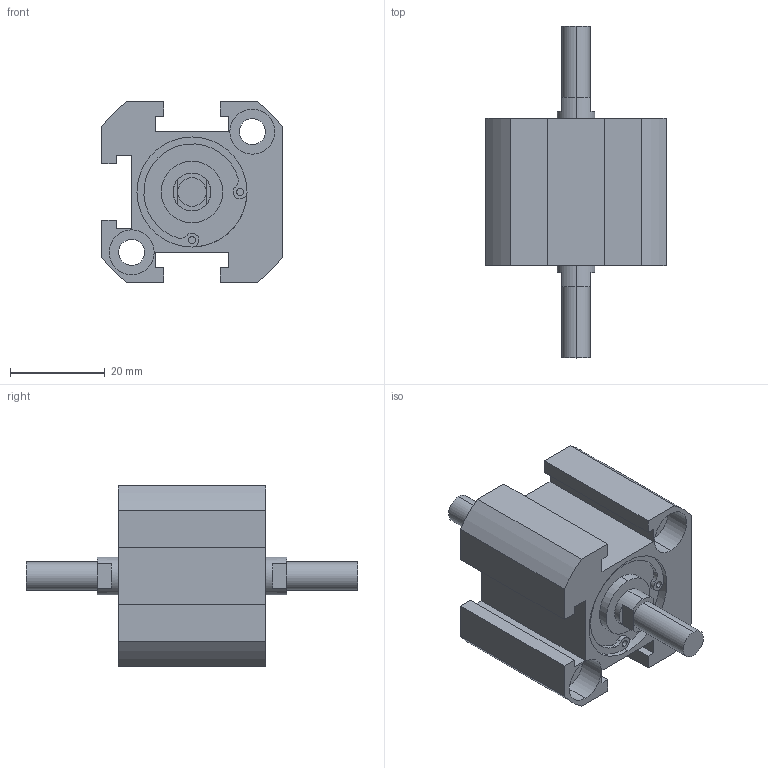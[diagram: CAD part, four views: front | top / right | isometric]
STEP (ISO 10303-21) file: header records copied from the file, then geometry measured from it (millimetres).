
FILE_DESCRIPTION (( 'STEP AP203' ), '1' );
FILE_NAME ('XC#M7-20-10.STEP', '2016-05-23T08:54:46', ( '' ), ( '' ), 'SwSTEP 2.0', 'SolidWorks 2014', '' );
FILE_SCHEMA (( 'CONFIG_CONTROL_DESIGN' ));
Length unit declared in the file: millimetre
Products named in the file (1): XC#M7-20-10
Bounding box: 38 x 70 x 38 mm (x, y, z)
Volume: 32641.4 mm3; surface area: 11277.3 mm2
Topology: 1 solids, 1 shells, 120 faces, 302 edges, 196 vertices
Faces by surface type: cylinder 58, plane 58, cone 4
Entity records: 3693 total; most frequent: DIRECTION 670, CARTESIAN_POINT 615, ORIENTED_EDGE 596, EDGE_CURVE 298, AXIS2_PLACEMENT_3D 251, VERTEX_POINT 196, LINE 168, VECTOR 168
